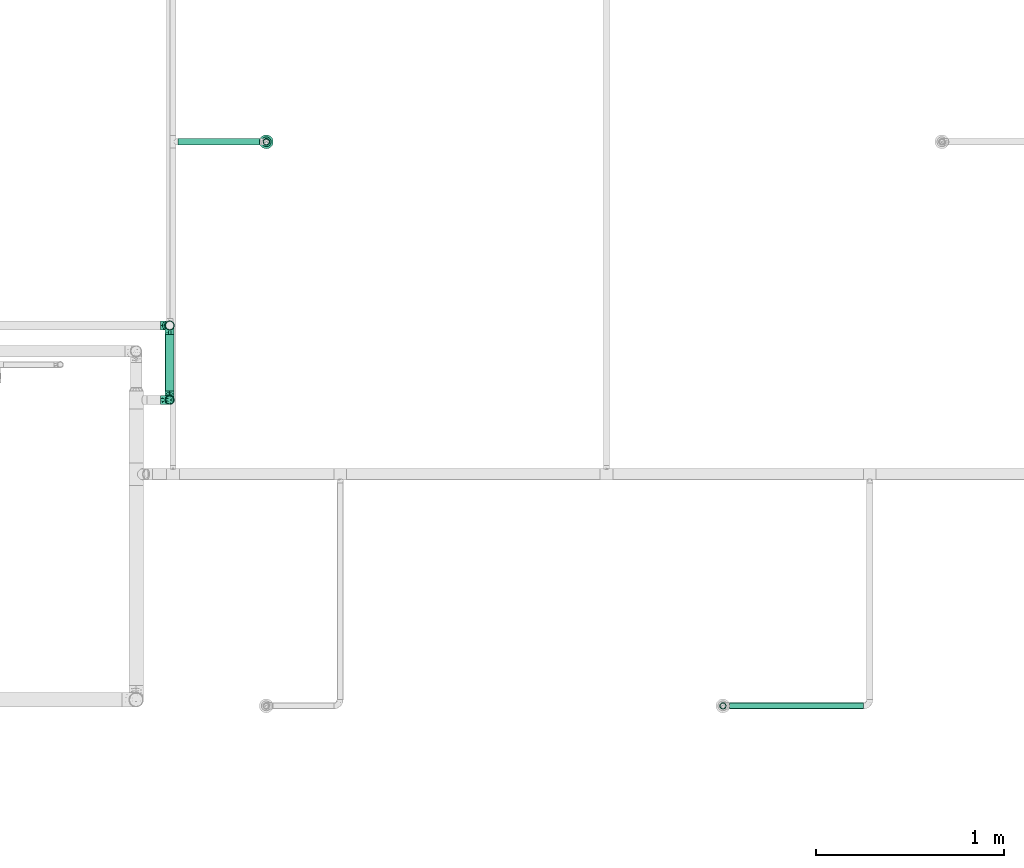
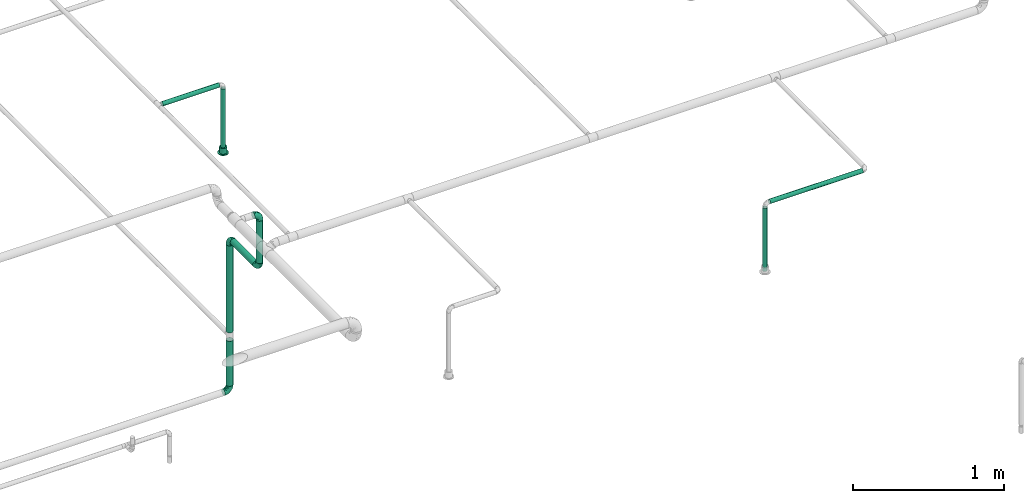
# One storey, part 19 of 95: 8 flow segments, 4 flow fittings, 1 flow terminal.
"""IFC2X3 building model written with IfcOpenShell, lengths in millimetres."""

from ifc_helpers import new_model, entity, si_unit, converted_unit, derived_unit, direction, frame, origin_with_axes, origin_2d_with_axis, place, context, subcontext, project, spatial, hollow_circle, extrude, open_shell, surface_model, source, transform, mapped, type_object, element, save


model = new_model("IFC2X3")

# Units and contexts
model_context = context("Model", 3, precision=0.01, world=frame((0.0, 4.29681676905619e-09, 0.0)), true_north=direction((4.01073788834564e-13, 1.0)))
plan_context = context("Plan", 3, precision=0.01, world=frame((0.0, 4.29681676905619e-09, 0.0)), true_north=direction((4.01073788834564e-13, 1.0)))
body_context = subcontext(model_context, "Body", "Model", "MODEL_VIEW")
ifc_project = project(units=[converted_unit("PLANEANGLEUNIT", "DEGREE", entity("IfcPositiveLengthMeasure", 0.0174532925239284), si_unit("PLANEANGLEUNIT", "RADIAN"), dimensions=[0, 0, 0, 0, 0, 0, 0]), si_unit("AREAUNIT", "SQUARE_METRE"), si_unit("LENGTHUNIT", "METRE", prefix="MILLI"), si_unit("MASSUNIT", "GRAM", prefix="KILO"), si_unit("POWERUNIT", "WATT"), si_unit("PRESSUREUNIT", "PASCAL"), si_unit("FORCEUNIT", "NEWTON", prefix="KILO"), si_unit("ELECTRICVOLTAGEUNIT", "VOLT"), si_unit("ELECTRICCURRENTUNIT", "AMPERE"), si_unit("THERMODYNAMICTEMPERATUREUNIT", "DEGREE_CELSIUS"), si_unit("TIMEUNIT", "SECOND"), si_unit("VOLUMEUNIT", "CUBIC_METRE"), derived_unit("LINEARVELOCITYUNIT", [(si_unit("LENGTHUNIT", "METRE"), 1), (si_unit("TIMEUNIT", "SECOND"), -1)]), derived_unit("VOLUMETRICFLOWRATEUNIT", [(si_unit("VOLUMEUNIT", "CUBIC_METRE"), 1), (si_unit("TIMEUNIT", "SECOND"), -1)]), derived_unit("THERMALTRANSMITTANCEUNIT", [(si_unit("POWERUNIT", "WATT"), 1), (si_unit("THERMODYNAMICTEMPERATUREUNIT", "KELVIN"), -1), (si_unit("AREAUNIT", "SQUARE_METRE"), -1)]), derived_unit("SOUNDPRESSUREUNIT", [(si_unit("PRESSUREUNIT", "PASCAL"), 1)])], contexts=[model_context, plan_context])

# Site, building, storey
site_placement = place(None, frame((0.0, -4.29681676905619e-09, 0.0), z_axis=(0.0, 0.0, 1.0), x_axis=(1.0, 0.0, 0.0)))
site = spatial("IfcSite", under=ifc_project, at=site_placement, CompositionType="ELEMENT")
building_placement = place(site_placement, frame((0.0, 4.29681676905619e-09, 0.0), z_axis=(0.0, 0.0, 1.0), x_axis=(1.0, 0.0, 0.0)))
building = spatial("IfcBuilding", under=site, at=building_placement, Name="mc-building", CompositionType="ELEMENT")
storey_placement = place(building_placement, frame((0.0, 0.0, 210900.0), z_axis=(0.0, 0.0, 1.0), x_axis=(1.0, 0.0, 0.0)))
storey = spatial("IfcBuildingStorey", under=building, at=storey_placement, Name="Nivå F", CompositionType="ELEMENT", Elevation=210900.0)

# Flow fittings
pipe_fitting_type = type_object("IfcPipeFittingType", Name="magi_pipe_fe_elbow_short_001", PredefinedType="BEND")
shared_shape_1 = source(origin_with_axes(), body_context, "Body", "SurfaceModel", [
    surface_model("IfcShellBasedSurfaceModel", [(-48.4, 6.26342, -23.37541), (-48.4, 0.0, -24.2), (-48.4, 17.11198, -17.11198), (-48.4, 12.1, -20.95781), (-48.4, 23.37541, -6.26342), (-48.4, 20.95781, -12.1), (-48.4, -12.1, -20.95781), (-48.4, -17.11198, -17.11198), (-48.4, -20.95781, -12.1), (-48.4, -6.26342, -23.37541), (-48.4, -23.37541, -6.26342), (-48.4, -24.2, 0.0), (-48.4, -23.37541, 6.26342), (-48.4, 23.37541, 6.26342), (-48.4, 6.26342, 23.37541), (-48.4, 20.95781, 12.1), (-48.4, 17.11198, 17.11198), (-48.4, 12.1, 20.95781), (-48.4, -12.1, 20.95781), (-48.4, -20.95781, 12.1), (-48.4, -17.11198, 17.11198), (-48.4, -6.26342, 23.37541), (-48.4, 0.0, 24.2), (-48.4, 24.2, 0.0), (-17.11198, 48.4, -17.11198), (0.0, 48.4, -24.2), (-6.26342, 48.4, -23.37541), (-12.1, 48.4, -20.95781), (-20.95781, 48.4, -12.1), (-23.37541, 48.4, -6.26342), (12.1, 48.4, -20.95781), (20.95781, 48.4, -12.1), (17.11198, 48.4, -17.11198), (6.26342, 48.4, -23.37541), (23.37541, 48.4, -6.26342), (23.37541, 48.4, 6.26342), (24.2, 48.4, 0.0), (-23.37541, 48.4, 6.26342), (-6.26342, 48.4, 23.37541), (-17.11198, 48.4, 17.11198), (-20.95781, 48.4, 12.1), (-12.1, 48.4, 20.95781), (12.1, 48.4, 20.95781), (17.11198, 48.4, 17.11198), (20.95781, 48.4, 12.1), (0.0, 48.4, 24.2), (6.26342, 48.4, 23.37541), (-24.2, 48.4, 0.0), (-35.50368, -18.80076, 13.58523), (-31.77913, -13.9618, 18.03279), (-34.50859, -21.43683, 0.0), (-21.39243, -15.41147, 12.21413), (-32.16301, -21.12203, 7.54749), (21.12203, 32.16301, 7.54749), (17.07617, 18.95745, 6.20374), (18.67365, 20.61718, 0.0), (-23.65565, 38.62451, 10.51816), (-20.21592, 37.67665, 15.89859), (-35.56981, -9.15108, 21.77256), (-36.96985, -3.20584, 23.78612), (-33.88786, 3.70953, 24.15875), (-8.84062, -10.8048, 0.0), (-18.95745, -17.07617, 6.20374), (-20.61718, -18.67365, 0.0), (-18.69715, -5.87343, 20.10488), (-24.09336, -0.21717, 23.45593), (-2.08262, -4.09091, 10.90396), (-0.40561, 0.49936, 14.45569), (-8.22634, -5.79523, 14.90978), (-37.83027, 20.17367, 15.88169), (-8.41063, 23.79825, 24.15658), (-17.92529, 17.92529, 23.61199), (-14.40991, 10.5752, 24.07534), (-41.86919, 14.6551, 19.71874), (-9.03342, 41.7434, 22.66763), (-3.31671, 36.19978, 24.14056), (-38.63654, 23.65174, 10.51655), (-38.25939, 25.77657, 5.32075), (-30.0475, 30.0475, 9.04616), (-37.30448, 9.49113, 22.86036), (-6.31688, 16.20853, 23.76192), (-12.02449, 4.43954, 22.59792), (-2.47225, 13.07459, 22.23951), (-4.32281, 4.32281, 19.78555), (13.9618, 31.77913, 18.03279), (15.41147, 21.39243, 12.21413), (18.80076, 35.50367, 13.58523), (-25.72741, 16.42033, 22.38358), (-26.59277, 10.36599, 23.76692), (3.20584, 36.96985, 23.78612), (9.15107, 35.56981, 21.77256), (5.87343, 18.69715, 20.10488), (21.43683, 34.50859, 0.0), (-23.74657, 5.93004, 24.18967), (-22.40302, 25.55556, 19.88516), (-33.3245, 16.42738, 20.3789), (-25.47357, 39.04012, 5.19167), (-30.32947, 31.74105, 4.25904), (11.04589, 19.60124, 16.55181), (-27.44219, 36.3, 0.0), (-10.46605, 32.79159, 23.04712), (-13.80953, 25.05111, 23.26361), (-17.54489, 31.27863, 20.33941), (-19.27982, 23.42922, 22.01925), (-14.78447, 40.57947, 19.81913), (-19.60124, -11.04589, 16.55181), (-25.09785, 32.07921, 13.69695), (-25.5093, 27.02629, 17.14196), (-31.08127, 26.00324, 13.49448), (0.21717, 24.09336, 23.45593), (5.51075, 8.40547, 15.32867), (-11.48597, -10.80284, 11.35932), (1.43689, -3.14326, 6.54995), (7.34882, 4.31024, 8.4514), (7.50574, 2.51208, 3.62663), (12.46453, 10.09451, 5.71609), (12.1504, 12.55391, 10.15678), (-36.3, 27.44219, 0.0), (-6.52237, -9.62364, 7.02633), (2.93595, -2.93595, 0.0), (10.8048, 8.84062, 0.0), (-19.60124, -11.04589, -16.55181), (-31.77913, -13.9618, -18.03279), (-18.69715, -5.87343, -20.10488), (-21.39243, -15.41147, -12.21413), (-37.67665, 20.21591, -15.89859), (-40.57947, 14.78447, -19.81913), (-39.04012, 25.47357, -5.19167), (-32.16301, -21.12203, -7.54749), (-30.0475, 30.0475, -9.04616), (-38.62452, 23.65565, -10.51816), (-18.95745, -17.07617, -6.20374), (-23.42922, 19.27982, -22.01926), (-25.05111, 13.80953, -23.26361), (-31.27863, 17.54489, -20.33941), (-14.6551, 41.86919, -19.71874), (-20.17367, 37.83026, -15.88169), (9.15108, 35.56981, -21.77256), (5.87343, 18.69715, -20.10488), (0.21717, 24.09336, -23.45593), (-41.7434, 9.03342, -22.66763), (-35.50368, -18.80076, -13.58523), (-35.56981, -9.15108, -21.77256), (-16.42033, 25.72741, -22.38358), (-9.49113, 37.30447, -22.86036), (-10.36599, 26.59277, -23.76692), (-36.96985, -3.20584, -23.78612), (-23.79826, 8.41063, -24.15658), (-17.92529, 17.92529, -23.61199), (-10.5752, 14.40991, -24.07534), (-36.19978, 3.31671, -24.14056), (-25.77657, 38.25939, -5.32075), (-23.65174, 38.63654, -10.51655), (-32.79159, 10.46605, -23.04712), (-31.74105, 30.32946, -4.25904), (-5.93004, 23.74657, -24.18967), (-25.55556, 22.40302, -19.88516), (-16.42738, 33.3245, -20.3789), (3.20584, 36.96985, -23.78612), (-3.70953, 33.88785, -24.15875), (18.80076, 35.50367, -13.58523), (13.9618, 31.77913, -18.03279), (7.50574, 2.51208, -3.62663), (12.46453, 10.09451, -5.71609), (-16.20853, 6.31688, -23.76192), (-4.43954, 12.02449, -22.59792), (-13.07459, 2.47225, -22.23951), (1.43689, -3.14326, -6.54995), (-6.52237, -9.62364, -7.02632), (-2.08262, -4.09091, -10.90396), (15.41147, 21.39243, -12.21413), (21.12203, 32.16301, -7.54749), (17.07617, 18.95745, -6.20374), (-32.07921, 25.09785, -13.69695), (11.04589, 19.60124, -16.55181), (12.1504, 12.55391, -10.15678), (5.51075, 8.40547, -15.32867), (-27.02629, 25.5093, -17.14196), (-26.00324, 31.08127, -13.49448), (-24.09336, -0.21717, -23.45593), (-4.32281, 4.32281, -19.78555), (-8.22634, -5.79524, -14.90978), (-11.48597, -10.80284, -11.35931), (-0.40561, 0.49936, -14.45569), (7.34882, 4.31024, -8.4514)], [open_shell([[[0, 1, 2]], [[3, 0, 2]], [[4, 5, 2]], [[6, 2, 1]], [[4, 2, 6]], [[7, 8, 6]], [[1, 9, 6]], [[8, 10, 6]], [[6, 10, 4]], [[11, 12, 10]], [[13, 4, 10]], [[14, 13, 10]], [[15, 13, 16]], [[13, 14, 17]], [[16, 13, 17]], [[10, 18, 14]], [[19, 20, 12]], [[20, 10, 12]], [[21, 22, 18]], [[20, 18, 10]], [[18, 22, 14]], [[23, 4, 13]], [[24, 25, 26]], [[24, 26, 27]], [[24, 28, 29]], [[25, 24, 30]], [[30, 24, 29]], [[30, 31, 32]], [[30, 33, 25]], [[30, 34, 31]], [[29, 34, 30]], [[34, 35, 36]], [[34, 29, 37]], [[34, 37, 38]], [[39, 37, 40]], [[41, 38, 37]], [[41, 37, 39]], [[38, 42, 34]], [[35, 43, 44]], [[35, 34, 43]], [[42, 45, 46]], [[34, 42, 43]], [[38, 45, 42]], [[37, 29, 47]], [[20, 48, 49]], [[12, 11, 50]], [[51, 48, 52]], [[53, 54, 55]], [[48, 20, 19]], [[12, 52, 19]], [[40, 56, 57]], [[49, 18, 20]], [[49, 58, 18]], [[22, 59, 60]], [[61, 62, 63]], [[58, 64, 65]], [[66, 67, 68]], [[15, 16, 69]], [[70, 71, 72]], [[17, 73, 16]], [[21, 59, 22]], [[38, 74, 75]], [[22, 60, 14]], [[15, 69, 76]], [[16, 73, 69]], [[23, 13, 77]], [[13, 15, 76]], [[77, 76, 78]], [[14, 79, 17]], [[80, 81, 82]], [[68, 83, 64]], [[84, 43, 42]], [[85, 86, 84]], [[87, 79, 88]], [[18, 58, 21]], [[45, 89, 46]], [[53, 35, 44]], [[45, 38, 75]], [[84, 90, 91]], [[44, 86, 53]], [[92, 35, 53]], [[86, 44, 43]], [[90, 42, 46]], [[53, 55, 92]], [[88, 93, 72]], [[54, 53, 85]], [[87, 94, 95]], [[78, 96, 97]], [[98, 84, 91]], [[99, 96, 47]], [[79, 14, 60]], [[96, 78, 56]], [[62, 52, 63]], [[57, 39, 40]], [[100, 70, 75]], [[101, 102, 103]], [[12, 50, 52]], [[104, 41, 39]], [[74, 38, 41]], [[57, 102, 104]], [[105, 64, 49]], [[90, 84, 42]], [[40, 37, 56]], [[56, 106, 57]], [[102, 57, 107]], [[95, 107, 69]], [[76, 108, 78]], [[100, 101, 70]], [[89, 75, 109]], [[64, 58, 49]], [[63, 52, 50]], [[59, 58, 65]], [[105, 49, 51]], [[64, 83, 81]], [[89, 90, 46]], [[36, 35, 92]], [[109, 82, 91]], [[109, 91, 90]], [[91, 83, 110]], [[111, 68, 105]], [[66, 68, 111]], [[62, 51, 52]], [[66, 112, 113]], [[114, 115, 113]], [[98, 85, 84]], [[52, 48, 19]], [[49, 48, 51]], [[84, 86, 43]], [[53, 86, 85]], [[88, 79, 60]], [[73, 79, 95]], [[96, 56, 37]], [[78, 108, 106]], [[87, 103, 94]], [[100, 74, 104]], [[108, 69, 107]], [[78, 97, 77]], [[88, 72, 71]], [[109, 75, 70]], [[81, 72, 65]], [[70, 72, 80]], [[75, 89, 45]], [[90, 89, 109]], [[58, 59, 21]], [[60, 59, 65]], [[67, 83, 68]], [[110, 113, 116]], [[88, 60, 93]], [[87, 88, 71]], [[103, 87, 71]], [[79, 87, 95]], [[101, 103, 71]], [[94, 103, 102]], [[47, 96, 37]], [[96, 99, 97]], [[99, 117, 97]], [[97, 117, 77]], [[23, 77, 117]], [[13, 76, 77]], [[60, 65, 93]], [[65, 72, 93]], [[70, 101, 71]], [[102, 101, 100]], [[69, 108, 76]], [[106, 108, 107]], [[57, 106, 107]], [[78, 106, 56]], [[57, 104, 39]], [[100, 104, 102]], [[102, 107, 94]], [[95, 94, 107]], [[64, 81, 65]], [[82, 81, 83]], [[91, 82, 83]], [[80, 82, 109]], [[70, 80, 109]], [[81, 80, 72]], [[79, 73, 17]], [[69, 73, 95]], [[104, 74, 41]], [[75, 74, 100]], [[62, 61, 118]], [[111, 62, 118]], [[113, 115, 116]], [[119, 118, 61]], [[111, 105, 51]], [[113, 112, 114]], [[120, 55, 54]], [[68, 64, 105]], [[91, 110, 98]], [[116, 98, 110]], [[62, 111, 51]], [[66, 111, 118]], [[112, 66, 118]], [[67, 113, 110]], [[118, 119, 112]], [[114, 112, 119]], [[119, 120, 114]], [[115, 120, 54]], [[120, 115, 114]], [[116, 54, 85]], [[54, 116, 115]], [[116, 85, 98]], [[113, 67, 66]], [[83, 67, 110]], [[121, 122, 123]], [[122, 121, 124]], [[5, 125, 2]], [[2, 126, 3]], [[117, 127, 23]], [[50, 10, 128]], [[127, 129, 130]], [[128, 131, 63]], [[132, 133, 134]], [[24, 135, 136]], [[137, 138, 139]], [[3, 140, 0]], [[128, 8, 141]], [[142, 6, 9]], [[128, 63, 50]], [[5, 4, 130]], [[8, 7, 141]], [[143, 144, 145]], [[146, 9, 1]], [[147, 148, 149]], [[8, 128, 10]], [[124, 141, 122]], [[150, 1, 0]], [[151, 152, 129]], [[125, 134, 126]], [[153, 147, 150]], [[127, 154, 129]], [[145, 155, 149]], [[47, 29, 151]], [[143, 156, 157]], [[152, 29, 28]], [[25, 158, 159]], [[122, 7, 6]], [[24, 27, 135]], [[144, 27, 26]], [[32, 160, 161]], [[25, 33, 158]], [[120, 162, 163]], [[130, 125, 5]], [[24, 136, 28]], [[0, 140, 150]], [[30, 161, 137]], [[142, 122, 6]], [[25, 159, 26]], [[164, 165, 166]], [[167, 168, 169]], [[31, 160, 32]], [[161, 30, 32]], [[170, 160, 171]], [[131, 128, 124]], [[36, 92, 34]], [[34, 92, 171]], [[172, 171, 55]], [[34, 171, 31]], [[144, 26, 159]], [[130, 173, 125]], [[174, 175, 176]], [[136, 152, 28]], [[30, 137, 33]], [[122, 142, 123]], [[134, 125, 177]], [[157, 177, 136]], [[152, 178, 129]], [[153, 133, 147]], [[146, 150, 179]], [[146, 142, 9]], [[11, 10, 50]], [[179, 166, 123]], [[179, 123, 142]], [[123, 180, 181]], [[138, 137, 161]], [[55, 171, 92]], [[158, 137, 139]], [[174, 161, 170]], [[138, 180, 165]], [[180, 138, 176]], [[124, 121, 182]], [[176, 183, 180]], [[61, 131, 168]], [[169, 168, 182]], [[172, 170, 171]], [[122, 141, 7]], [[128, 141, 124]], [[171, 160, 31]], [[161, 160, 170]], [[145, 144, 159]], [[135, 144, 157]], [[127, 130, 4]], [[129, 178, 173]], [[143, 132, 156]], [[153, 140, 126]], [[178, 136, 177]], [[129, 154, 151]], [[145, 149, 148]], [[179, 150, 147]], [[165, 149, 139]], [[147, 149, 164]], [[150, 146, 1]], [[142, 146, 179]], [[137, 158, 33]], [[159, 158, 139]], [[174, 138, 161]], [[184, 169, 183]], [[145, 159, 155]], [[143, 145, 148]], [[132, 143, 148]], [[144, 143, 157]], [[133, 132, 148]], [[156, 132, 134]], [[23, 127, 4]], [[127, 117, 154]], [[117, 99, 154]], [[154, 99, 151]], [[47, 151, 99]], [[29, 152, 151]], [[159, 139, 155]], [[139, 149, 155]], [[147, 133, 148]], [[134, 133, 153]], [[136, 178, 152]], [[173, 178, 177]], [[125, 173, 177]], [[129, 173, 130]], [[125, 126, 2]], [[153, 126, 134]], [[134, 177, 156]], [[157, 156, 177]], [[138, 165, 139]], [[166, 165, 180]], [[123, 166, 180]], [[164, 166, 179]], [[147, 164, 179]], [[165, 164, 149]], [[144, 135, 27]], [[136, 135, 157]], [[126, 140, 3]], [[150, 140, 153]], [[182, 131, 124]], [[168, 119, 61]], [[119, 167, 162]], [[63, 131, 61]], [[172, 163, 175]], [[172, 55, 120]], [[123, 181, 121]], [[182, 121, 181]], [[175, 174, 170]], [[176, 138, 174]], [[169, 182, 181]], [[131, 182, 168]], [[183, 169, 181]], [[167, 169, 184]], [[162, 167, 184]], [[119, 168, 167]], [[163, 162, 184]], [[120, 119, 162]], [[175, 163, 184]], [[120, 163, 172]], [[176, 175, 184]], [[172, 175, 170]], [[180, 183, 181]], [[184, 183, 176]]])]),
])
for number, where, z_axis, x_axis, name in (
    (1, (522780.97009, 451232.40627, 4274.84456), (0.0, 1.0, 0.0), (1.0, 0.0, 0.0), "magi_pipe_fe_elbow_short_001"),
    (2, (522780.97009, 451232.40627, 3834.84456), (1.0, 0.0, 0.0), (0.0, 0.0, -1.0), "magi_pipe_fe_elbow_short_001"),
    (3, (522780.97009, 451628.04949, 3834.84456), (-1.0, 0.0, 0.0), (0.0, 1.0, 0.0), "magi_pipe_fe_elbow_short_001"),
    (4, (522780.97009, 451628.04949, 2600.0), (0.0, 1.0, 0.0), (0.0, 0.0, -1.0), "magi_pipe_fe_elbow_short_001"),
):
    element("IfcFlowFitting", number, at=place(storey_placement, frame(where, z_axis=z_axis, x_axis=x_axis)), inside=storey, type_object=pipe_fitting_type, Name=name, context=body_context, shape_type="MappedRepresentation", body=[
        mapped(shared_shape_1, transform((0.0, 0.0, 0.0), scale=1.0)),
    ])

# Flow segments
pipe_segment_type = type_object("IfcPipeSegmentType", Name="Stålrør normaltykke", PredefinedType="RIGIDSEGMENT")
shared_shape_2 = source(origin_with_axes(), body_context, "Body", "SweptSolid", [
    extrude(hollow_circle(Radius=16.9, WallThickness=2.0, at=origin_2d_with_axis()), frame((0.0, 0.0, 0.0), z_axis=(1.0, 0.0, 0.0), x_axis=(0.0, 1.0, 0.0)), (0.0, 0.0, 1.0), 436.2),
])
flow_segment_1_placement = place(storey_placement, frame((523260.16306, 452603.26458, 4315.0), z_axis=(0.0, 0.0, 1.0), x_axis=(-1.0, 0.0, 0.0)))
element("IfcFlowSegment", 5, at=flow_segment_1_placement, inside=storey, type_object=pipe_segment_type, Name="Stålrør normaltykke", context=body_context, shape_type="MappedRepresentation", body=[
    mapped(shared_shape_2, transform((0.0, 0.0, 0.0), scale=1.0)),
])
shared_shape_3 = source(origin_with_axes(), body_context, "Body", "SweptSolid", [
    extrude(hollow_circle(Radius=16.9, WallThickness=2.0, at=origin_2d_with_axis()), frame((0.0, 0.0, 0.0), z_axis=(1.0, 0.0, 0.0), x_axis=(0.0, 1.0, 0.0)), (0.0, 0.0, 1.0), 712.4),
])
flow_segment_2_placement = place(storey_placement, frame((526464.99194, 449607.85, 4315.0), z_axis=(0.0, 0.0, 1.0), x_axis=(-1.0, 0.0, 0.0)))
element("IfcFlowSegment", 6, at=flow_segment_2_placement, inside=storey, type_object=pipe_segment_type, Name="Stålrør normaltykke", context=body_context, shape_type="MappedRepresentation", body=[
    mapped(shared_shape_3, transform((0.0, 0.0, 0.0), scale=1.0)),
])
shared_shape_4 = source(origin_with_axes(), body_context, "Body", "SweptSolid", [
    extrude(hollow_circle(Radius=16.9, WallThickness=2.0, at=origin_2d_with_axis()), frame((0.0, 0.0, 0.0), z_axis=(1.0, 0.0, 0.0), x_axis=(0.0, 1.0, 0.0)), (0.0, 0.0, 1.0), 511.9),
])
for number, where, z_axis, x_axis in (
    (7, (523293.96306, 452603.266, 4281.20000000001), (0.0, -0.9999999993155, -3.69999999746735e-05), (0.0, 3.69999999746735e-05, -0.9999999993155)),
    (8, (525718.79194, 449607.85, 4281.20000000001), (-0.000893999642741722, -0.99999960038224, 0.0), (0.0, 0.0, -1.0)),
):
    element("IfcFlowSegment", number, at=place(storey_placement, frame(where, z_axis=z_axis, x_axis=x_axis)), inside=storey, type_object=pipe_segment_type, Name="Stålrør normaltykke", context=body_context, shape_type="MappedRepresentation", body=[
        mapped(shared_shape_4, transform((0.0, 0.0, 0.0), scale=1.0)),
    ])
shared_shape_5 = source(origin_with_axes(), body_context, "Body", "SweptSolid", [
    extrude(hollow_circle(Radius=24.1, WallThickness=2.0, at=origin_2d_with_axis()), frame((0.0, 0.0, 0.0), z_axis=(1.0, 0.0, 0.0), x_axis=(0.0, 1.0, 0.0)), (0.0, 0.0, 1.0), 343.2),
])
flow_segment_3_placement = place(storey_placement, frame((522780.97009, 451232.40627, 4226.44456), z_axis=(0.0, -1.0, 0.0), x_axis=(0.0, 0.0, -1.0)))
element("IfcFlowSegment", 9, at=flow_segment_3_placement, inside=storey, type_object=pipe_segment_type, Name="Stålrør normaltykke", context=body_context, shape_type="MappedRepresentation", body=[
    mapped(shared_shape_5, transform((0.0, 0.0, 0.0), scale=1.0)),
])
shared_shape_6 = source(origin_with_axes(), body_context, "Body", "SweptSolid", [
    extrude(hollow_circle(Radius=24.1, WallThickness=2.0, at=origin_2d_with_axis()), frame((0.0, 0.0, 0.0), z_axis=(1.0, 0.0, 0.0), x_axis=(0.0, 1.0, 0.0)), (0.0, 0.0, 1.0), 298.8),
])
flow_segment_4_placement = place(storey_placement, frame((522780.97009, 451280.80627, 3834.84456), z_axis=(0.0, 0.0, 1.0), x_axis=(0.0, 1.0, 0.0)))
element("IfcFlowSegment", 10, at=flow_segment_4_placement, inside=storey, type_object=pipe_segment_type, Name="Stålrør normaltykke", context=body_context, shape_type="MappedRepresentation", body=[
    mapped(shared_shape_6, transform((0.0, 0.0, 0.0), scale=1.0)),
])
shared_shape_7 = source(origin_with_axes(), body_context, "Body", "SweptSolid", [
    extrude(hollow_circle(Radius=24.1, WallThickness=2.0, at=origin_2d_with_axis()), frame((0.0, 0.0, 0.0), z_axis=(1.0, 0.0, 0.0), x_axis=(0.0, 1.0, 0.0)), (0.0, 0.0, 1.0), 364.7),
])
flow_segment_5_placement = place(storey_placement, frame((522780.97009, 451628.04949, 3013.06988), z_axis=(0.0, 1.0, 0.0), x_axis=(0.0, 0.0, -1.0)))
element("IfcFlowSegment", 11, at=flow_segment_5_placement, inside=storey, type_object=pipe_segment_type, Name="Stålrør normaltykke", context=body_context, shape_type="MappedRepresentation", body=[
    mapped(shared_shape_7, transform((0.0, 0.0, 0.0), scale=1.0)),
])
shared_shape_8 = source(origin_with_axes(), body_context, "Body", "SweptSolid", [
    extrude(hollow_circle(Radius=24.1, WallThickness=2.0, at=origin_2d_with_axis()), frame((0.0, 0.0, 0.0), z_axis=(1.0, 0.0, 0.0), x_axis=(0.0, 1.0, 0.0)), (0.0, 0.0, 1.0), 705.8),
])
flow_segment_6_placement = place(storey_placement, frame((522780.97009, 451628.04949, 3786.44456), z_axis=(0.0, 1.0, 0.0), x_axis=(0.0, 0.0, -1.0)))
element("IfcFlowSegment", 12, at=flow_segment_6_placement, inside=storey, type_object=pipe_segment_type, Name="Stålrør normaltykke", context=body_context, shape_type="MappedRepresentation", body=[
    mapped(shared_shape_8, transform((0.0, 0.0, 0.0), scale=1.0)),
])

# Flow terminal
fire_suppression_terminal_type = type_object("IfcFireSuppressionTerminalType", Name="68DGR-STD-SKJULT I HIMLING", PredefinedType="NOTDEFINED")
shared_shape_9 = source(origin_with_axes(), body_context, "Body", "SurfaceModel", [
    surface_model("IfcShellBasedSurfaceModel", [(6.72929, -25.11407, 0.0), (13.0, -22.51666, 0.0), (18.38478, -18.38478, 0.0), (-25.11407, -6.72929, 0.0), (25.11407, -6.72929, 0.0), (26.0, 0.0, 0.0), (22.51666, -13.0, 0.0), (-6.72929, -25.11407, 0.0), (-13.0, -22.51666, 0.0), (0.0, -26.0, 0.0), (-18.38478, -18.38478, 0.0), (-22.51666, -13.0, 0.0), (25.11407, 6.72929, 0.0), (22.51666, 13.0, 0.0), (18.38478, 18.38478, 0.0), (13.0, 22.51666, 0.0), (6.72929, 25.11407, 0.0), (0.0, 26.0, 0.0), (-18.38478, 18.38478, 0.0), (-26.0, 0.0, 0.0), (-22.51666, 13.0, 0.0), (-25.11407, 6.72929, 0.0), (-6.72929, 25.11407, 0.0), (-13.0, 22.51666, 0.0), (0.0, 26.0, -46.0), (6.72929, 25.11407, -46.0), (13.0, 22.51666, -46.0), (-25.11407, -6.72929, -46.0), (18.38478, 18.38478, -46.0), (22.51666, 13.0, -46.0), (25.11407, 6.72929, -46.0), (-18.38478, 18.38478, -46.0), (-6.72929, 25.11407, -46.0), (-13.0, 22.51666, -46.0), (-22.51666, 13.0, -46.0), (-26.0, 0.0, -46.0), (-25.11407, 6.72929, -46.0), (25.11407, -6.72929, -46.0), (18.38478, -18.38478, -46.0), (22.51666, -13.0, -46.0), (13.0, -22.51666, -46.0), (6.72929, -25.11407, -46.0), (-18.38478, -18.38478, -46.0), (-22.51666, -13.0, -46.0), (-13.0, -22.51666, -46.0), (-6.72929, -25.11407, -46.0), (0.0, -26.0, -46.0), (26.0, 0.0, -46.0), (35.73926, -9.57631, 5.0), (9.57631, -35.73926, 5.0), (18.5, -32.04294, 5.0), (32.04294, -18.5, 5.0), (26.16295, -26.16295, 5.0), (-18.5, -32.04294, 5.0), (-26.16295, -26.16295, 5.0), (37.0, 0.0, 5.0), (0.0, -37.0, 5.0), (-9.57631, -35.73926, 5.0), (-35.73926, -9.57631, 5.0), (-32.04294, -18.5, 5.0), (35.73926, 9.57631, 5.0), (0.0, 37.0, 5.0), (32.04294, 18.5, 5.0), (18.5, 32.04294, 5.0), (26.16295, 26.16295, 5.0), (9.57631, 35.73926, 5.0), (-9.57631, 35.73926, 5.0), (-35.73926, 9.57631, 5.0), (-26.16295, 26.16295, 5.0), (-32.04294, 18.5, 5.0), (-37.0, 0.0, 5.0), (-18.5, 32.04294, 5.0), (0.0, 37.0, 0.0), (9.57631, 35.73926, 0.0), (18.5, 32.04294, 0.0), (32.04294, 18.5, 0.0), (-26.16295, 26.16295, 0.0), (26.16295, 26.16295, 0.0), (35.73926, -9.57631, 0.0), (-9.57631, 35.73926, 0.0), (-18.5, 32.04294, 0.0), (-35.73926, 9.57631, 0.0), (-32.04294, 18.5, 0.0), (-26.16295, -26.16295, 0.0), (-37.0, 0.0, 0.0), (35.73926, 9.57631, 0.0), (37.0, 0.0, 0.0), (9.57631, -35.73926, 0.0), (18.5, -32.04294, 0.0), (32.04294, -18.5, 0.0), (26.16295, -26.16295, 0.0), (-18.5, -32.04294, 0.0), (-35.73926, -9.57631, 0.0), (-32.04294, -18.5, 0.0), (0.0, -37.0, 0.0), (-9.57631, -35.73926, 0.0)], [open_shell([[[0, 1, 2]], [[3, 0, 2]], [[4, 5, 2]], [[4, 2, 6]], [[3, 2, 5]], [[7, 3, 8]], [[7, 9, 0]], [[10, 3, 11]], [[3, 10, 8]], [[0, 3, 7]], [[5, 12, 3]], [[12, 13, 14]], [[12, 14, 15]], [[15, 16, 17]], [[17, 3, 15]], [[17, 18, 3]], [[19, 20, 21]], [[19, 3, 20]], [[18, 22, 23]], [[3, 18, 20]], [[17, 22, 18]], [[12, 15, 3]], [[24, 25, 26]], [[27, 24, 26]], [[28, 29, 30]], [[28, 30, 26]], [[27, 31, 24]], [[32, 31, 33]], [[32, 24, 31]], [[34, 35, 36]], [[35, 34, 31]], [[31, 27, 35]], [[27, 26, 30]], [[30, 37, 38]], [[38, 37, 39]], [[38, 40, 41]], [[38, 27, 30]], [[41, 27, 38]], [[27, 42, 43]], [[42, 27, 44]], [[27, 45, 44]], [[27, 41, 45]], [[41, 46, 45]], [[37, 30, 47]], [[3, 27, 43]], [[42, 11, 43]], [[8, 44, 45]], [[42, 44, 10]], [[7, 45, 46]], [[19, 35, 3]], [[35, 27, 3]], [[43, 11, 3]], [[42, 10, 11]], [[8, 10, 44]], [[45, 7, 8]], [[46, 9, 7]], [[0, 41, 40]], [[38, 1, 40]], [[6, 39, 37]], [[38, 39, 2]], [[4, 37, 47]], [[41, 0, 9]], [[40, 1, 0]], [[38, 2, 1]], [[39, 6, 2]], [[4, 6, 37]], [[47, 5, 4]], [[41, 9, 46]], [[30, 12, 47]], [[29, 13, 30]], [[25, 24, 16]], [[28, 14, 29]], [[30, 13, 12]], [[12, 5, 47]], [[15, 26, 16]], [[26, 15, 14]], [[26, 25, 16]], [[14, 13, 29]], [[14, 28, 26]], [[24, 17, 16]], [[22, 32, 33]], [[31, 23, 33]], [[20, 34, 36]], [[31, 34, 18]], [[21, 36, 35]], [[32, 22, 17]], [[33, 23, 22]], [[31, 18, 23]], [[34, 20, 18]], [[21, 20, 36]], [[35, 19, 21]], [[32, 17, 24]], [[48, 49, 50]], [[51, 50, 52]], [[49, 48, 53]], [[48, 50, 51]], [[54, 48, 55]], [[56, 53, 57]], [[56, 49, 53]], [[54, 58, 59]], [[54, 53, 48]], [[58, 54, 55]], [[55, 60, 58]], [[61, 60, 62]], [[63, 62, 64]], [[63, 65, 61]], [[63, 61, 62]], [[60, 61, 66]], [[67, 68, 69]], [[70, 58, 67]], [[68, 66, 71]], [[67, 60, 68]], [[60, 66, 68]], [[67, 58, 60]], [[72, 73, 74]], [[72, 74, 75]], [[72, 75, 76]], [[75, 74, 77]], [[78, 76, 75]], [[79, 76, 80]], [[79, 72, 76]], [[76, 81, 82]], [[76, 78, 81]], [[81, 83, 84]], [[85, 86, 75]], [[81, 78, 87]], [[88, 78, 89]], [[88, 87, 78]], [[88, 89, 90]], [[91, 81, 87]], [[92, 83, 93]], [[84, 83, 92]], [[91, 94, 95]], [[83, 81, 91]], [[94, 91, 87]], [[78, 75, 86]], [[92, 58, 84]], [[93, 59, 92]], [[53, 83, 91]], [[93, 83, 54]], [[57, 91, 95]], [[92, 59, 58]], [[58, 70, 84]], [[57, 53, 91]], [[54, 83, 53]], [[54, 59, 93]], [[56, 57, 95]], [[95, 94, 56]], [[87, 49, 94]], [[88, 50, 87]], [[51, 90, 89]], [[88, 90, 52]], [[48, 89, 78]], [[88, 52, 50]], [[50, 49, 87]], [[55, 48, 78]], [[51, 89, 48]], [[51, 52, 90]], [[86, 55, 78]], [[94, 49, 56]], [[85, 60, 86]], [[75, 62, 85]], [[63, 77, 74]], [[75, 77, 64]], [[65, 74, 73]], [[85, 62, 60]], [[60, 55, 86]], [[65, 63, 74]], [[64, 77, 63]], [[64, 62, 75]], [[61, 65, 73]], [[73, 72, 61]], [[79, 66, 72]], [[80, 71, 79]], [[69, 76, 82]], [[80, 76, 68]], [[67, 82, 81]], [[80, 68, 71]], [[71, 66, 79]], [[70, 67, 81]], [[69, 82, 67]], [[69, 68, 76]], [[84, 70, 81]], [[72, 66, 61]]])]),
])
flow_terminal_placement = place(storey_placement, frame((523293.96306, 452603.28649, 3759.89999999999), z_axis=(0.0, 0.0, -1.0), x_axis=(-1.0, 0.0, 0.0)))
element("IfcFlowTerminal", 13, at=flow_terminal_placement, inside=storey, type_object=fire_suppression_terminal_type, Name="68DGR-STD-SKJULT I HIMLING", context=body_context, shape_type="MappedRepresentation", body=[
    mapped(shared_shape_9, transform((0.0, 0.0, 0.0), scale=1.0)),
])

save(model, "model.ifc")
